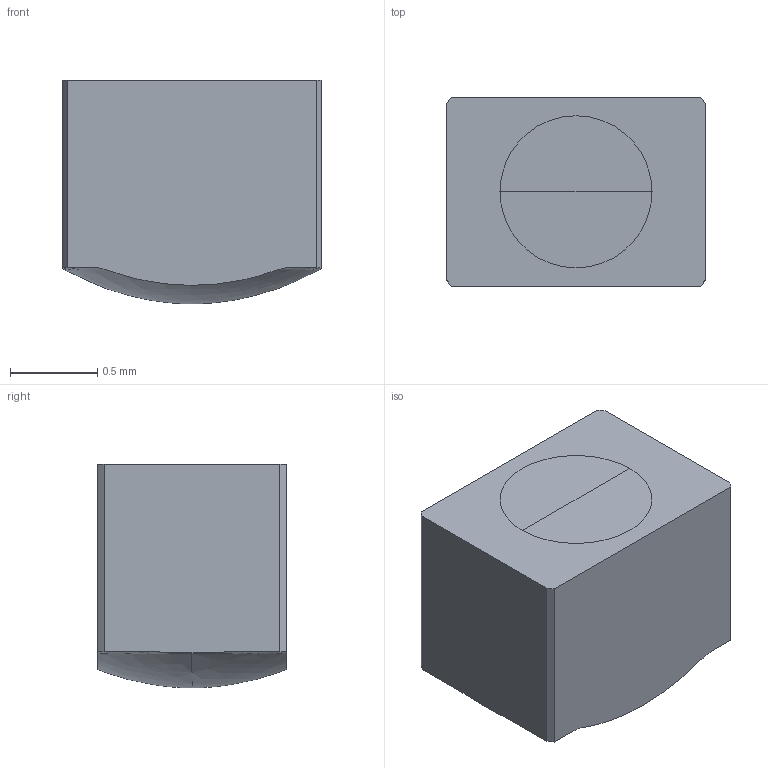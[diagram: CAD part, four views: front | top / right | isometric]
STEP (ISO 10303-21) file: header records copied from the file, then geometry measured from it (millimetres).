
FILE_DESCRIPTION((''),'2;1');
FILE_NAME('355951','2025-06-07T23:15:38',('admin'),('LIGHTPATH'),'CREO PARAMETRIC BY PTC INC, 2024063','CREO PARAMETRIC BY PTC INC, 2024063','');
FILE_SCHEMA(('CONFIG_CONTROL_DESIGN'));
Length unit declared in the file: millimetre
Products named in the file (1): 355951
Bounding box: 1.48 x 1.08 x 1.28 mm (x, y, z)
Volume: 1.9 mm3; surface area: 8.8 mm2
Topology: 1 solids, 1 shells, 19 faces, 54 edges, 34 vertices
Faces by surface type: plane 9, revolution 4, cylinder 4, torus 2
Entity records: 957 total; most frequent: CARTESIAN_POINT 444, ORIENTED_EDGE 100, DIRECTION 92, EDGE_CURVE 50, VERTEX_POINT 34, AXIS2_PLACEMENT_3D 33, VECTOR 22, LINE 22
